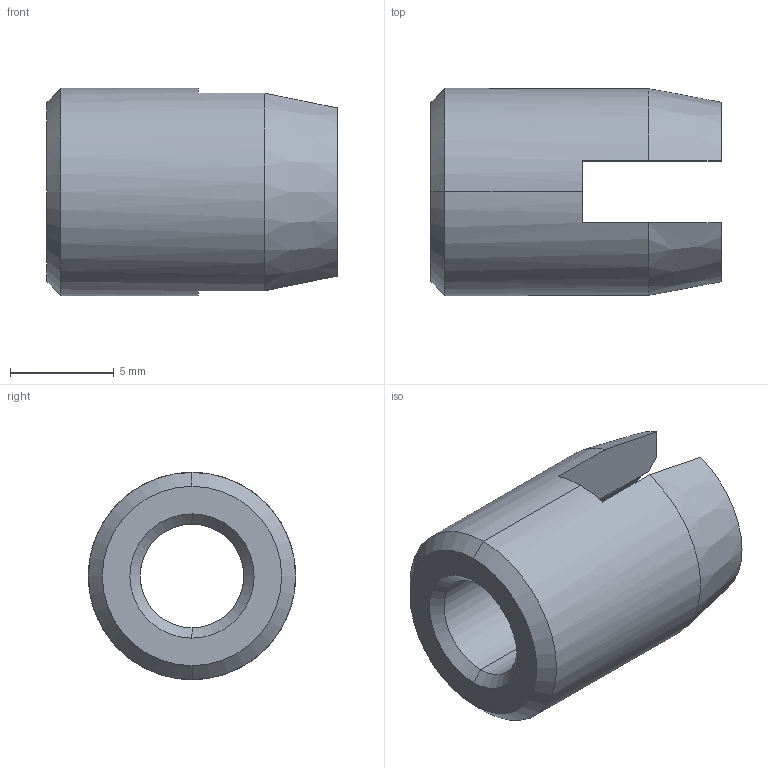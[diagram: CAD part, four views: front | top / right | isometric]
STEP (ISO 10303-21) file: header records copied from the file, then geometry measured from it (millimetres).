
FILE_DESCRIPTION (( 'STEP AP203' ), '1' );
FILE_NAME ('FSUK-SCR-M06.STEP', '2021-04-14T09:49:48', ( '' ), ( '' ), 'SwSTEP 2.0', 'SolidWorks 2021', '' );
FILE_SCHEMA (( 'CONFIG_CONTROL_DESIGN' ));
Length unit declared in the file: millimetre
Products named in the file (1): FSUK-SCR-M06
Bounding box: 14 x 10 x 10 mm (x, y, z)
Volume: 682.4 mm3; surface area: 721 mm2
Topology: 1 solids, 1 shells, 21 faces, 56 edges, 36 vertices
Faces by surface type: plane 9, cone 8, cylinder 4
Entity records: 751 total; most frequent: CARTESIAN_POINT 138, DIRECTION 116, ORIENTED_EDGE 112, EDGE_CURVE 56, AXIS2_PLACEMENT_3D 46, VERTEX_POINT 36, CIRCLE 24, LINE 24
